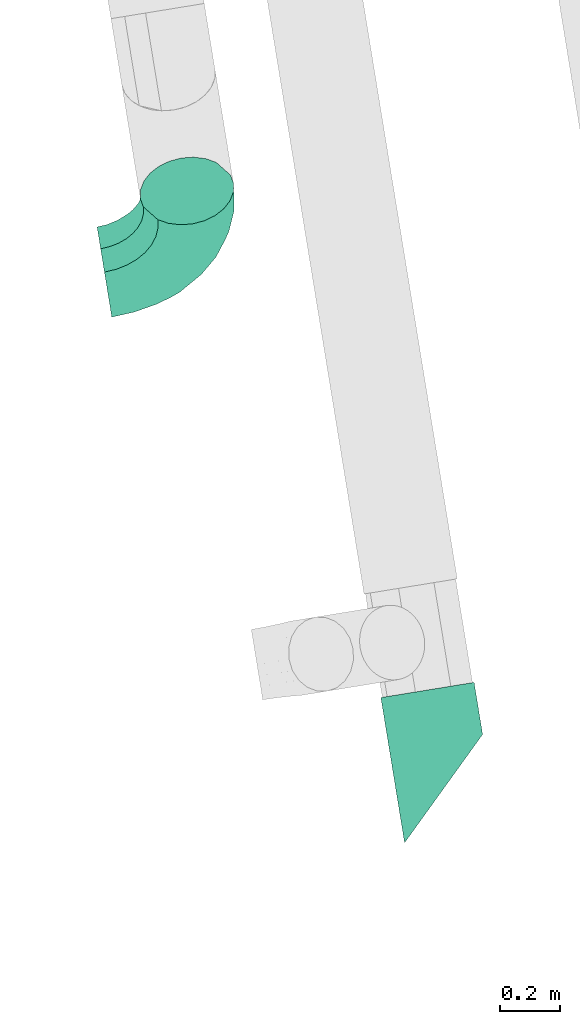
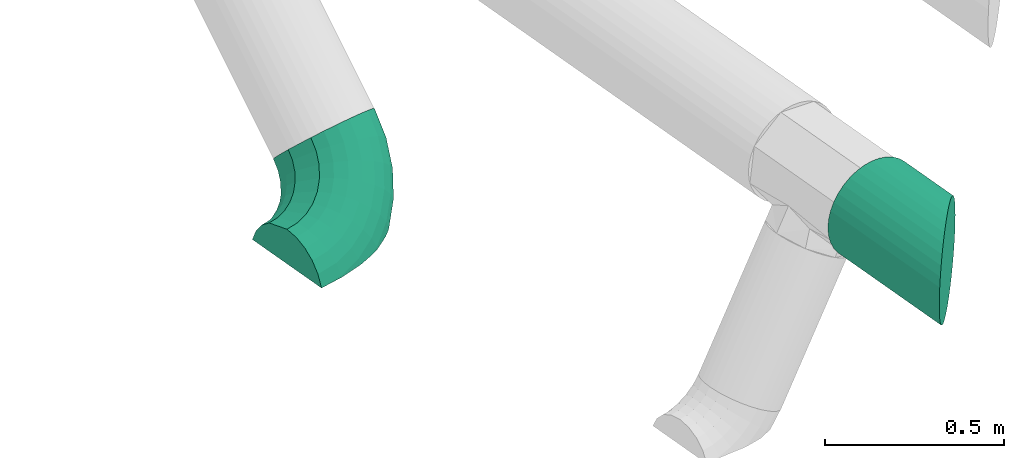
# One storey, part 15 of 15: 1 flow fitting, 1 flow segment.
"""IFC2X3 building model written with IfcOpenShell, lengths in millimetres."""

from ifc_helpers import new_model, entity, si_unit, converted_unit, derived_unit, direction, frame, origin, origin_with_axes, place, context, subcontext, project, spatial, faceted_brep, material, type_object, element, save


model = new_model("IFC2X3")

# Units and contexts
model_context = context("Model", 3, precision=0.01, world=origin(), true_north=direction((6.12323399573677e-17, 1.0)))
plan_context = context("Plan", 3, precision=1e-05, world=origin_with_axes())
body_context = subcontext(model_context, "Body", "Model", "MODEL_VIEW")
ifc_project = project(units=[converted_unit("PLANEANGLEUNIT", "DEGREE", entity("IfcPositiveLengthMeasure", 0.0174532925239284), si_unit("PLANEANGLEUNIT", "RADIAN"), dimensions=[0, 0, 0, 0, 0, 0, 0]), si_unit("AREAUNIT", "SQUARE_METRE"), si_unit("LENGTHUNIT", "METRE", prefix="MILLI"), si_unit("MASSUNIT", "GRAM", prefix="KILO"), si_unit("POWERUNIT", "WATT"), si_unit("PRESSUREUNIT", "PASCAL", prefix="KILO"), si_unit("FORCEUNIT", "NEWTON", prefix="KILO"), si_unit("ELECTRICVOLTAGEUNIT", "VOLT"), si_unit("ELECTRICCURRENTUNIT", "AMPERE"), si_unit("THERMODYNAMICTEMPERATUREUNIT", "DEGREE_CELSIUS"), si_unit("TIMEUNIT", "SECOND"), si_unit("VOLUMEUNIT", "CUBIC_METRE"), derived_unit("LINEARVELOCITYUNIT", [(si_unit("LENGTHUNIT", "METRE"), 1), (si_unit("TIMEUNIT", "SECOND"), -1)]), derived_unit("VOLUMETRICFLOWRATEUNIT", [(si_unit("VOLUMEUNIT", "CUBIC_METRE"), 1), (si_unit("TIMEUNIT", "SECOND"), -1)]), derived_unit("THERMALTRANSMITTANCEUNIT", [(si_unit("POWERUNIT", "WATT"), 1), (si_unit("THERMODYNAMICTEMPERATUREUNIT", "KELVIN"), -1), (si_unit("AREAUNIT", "SQUARE_METRE"), -1)]), derived_unit("SOUNDPRESSUREUNIT", [(si_unit("PRESSUREUNIT", "PASCAL"), 1)])], contexts=[model_context, plan_context])

# Site, building, storey
site_placement = place(None, frame((5.09380697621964e-08, 5.80416781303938e-08, 0.0), z_axis=(0.0, 0.0, 1.0), x_axis=(-0.160806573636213, 0.986985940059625, 0.0)))
site = spatial("IfcSite", under=ifc_project, at=site_placement, Name="Default", CompositionType="ELEMENT")
building_placement = place(site_placement, frame((0.0, 0.0, 0.0), z_axis=(0.0, 0.0, 1.0), x_axis=(1.0, -2.77555756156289e-17, 0.0)))
building = spatial("IfcBuilding", under=site, at=building_placement, Name="Bygning (endres i Project Information)", CompositionType="ELEMENT")
storey_placement = place(building_placement, frame((0.0, 0.0, 51360.0000000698), z_axis=(0.0, 0.0, 1.0), x_axis=(1.0, -2.77555756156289e-17, 0.0)))
storey = spatial("IfcBuildingStorey", under=building, at=storey_placement, Name="H01-Nivå D+0,36", CompositionType="ELEMENT", Elevation=51360.0000000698)

# Flow fitting
ifc_material_1 = material(Name="3601.001 Avtrekk")
duct_fitting_type = type_object("IfcDuctFittingType", Name="magicirc_elbow_full_radius_NOR:magicirc_elbow_full_radius_NOR", PredefinedType="NOTDEFINED", material=ifc_material_1)
flow_fitting_placement = place(storey_placement, frame((1007771.23246289, -355155.614985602, 3100.0), z_axis=(-0.707106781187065, 1.96261557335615e-17, 0.70710678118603), x_axis=(-2.77555756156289e-17, -1.0, 0.0)))
element("IfcFlowFitting", 1, at=flow_fitting_placement, inside=storey, type_object=duct_fitting_type, Name="magicirc_elbow_full_radius_NOR:magicirc_elbow_full_radius_NOR", ObjectType="magicirc_elbow_full_radius_NOR:magicirc_elbow_full_radius_NOR", context=body_context, shape_type="Brep", body=[
    faceted_brep([(77.4536759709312, 52.7708375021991, 3.79770489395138), (40.8507561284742, 15.8045427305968, 40.7639996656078), (73.4071586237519, 55.4746339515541, 40.7639996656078), (80.0477799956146, 56.5685423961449, 0.0), (116.574911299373, 136.23581884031, 40.7639996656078), (121.533079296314, 134.182078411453, 0.0), (143.157482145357, 223.866810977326, 40.7639996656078), (148.421045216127, 222.819823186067, 0.0), (152.133317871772, 315.000000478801, 40.7639996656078), (157.500000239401, 315.000000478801, 0.0), (143.157482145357, 223.866810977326, -40.7639996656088), (152.133317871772, 315.000000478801, -40.7639996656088), (103.176751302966, 231.819472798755, -111.369318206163), (111.369318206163, 315.000000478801, -111.369318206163), (71.1842042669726, 238.183186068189, -136.399001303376), (78.7500001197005, 315.000000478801, -136.399001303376), (33.928094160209, 245.593887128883, -152.133317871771), (40.7639996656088, 315.000000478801, -152.133317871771), (-6.05263668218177, 253.546548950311, -157.5000002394), (0.0, 315.000000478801, -157.5000002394), (-46.0333675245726, 261.49921077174, -152.133317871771), (-40.7639996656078, 315.000000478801, -152.133317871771), (-83.2894776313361, 268.909911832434, -136.399001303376), (-78.7500001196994, 315.000000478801, -136.399001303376), (-115.282024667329, 275.273625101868, -111.369318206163), (-111.369318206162, 315.000000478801, -111.369318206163), (-139.830769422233, 280.156674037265, -78.7500001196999), (-136.399001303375, 315.000000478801, -78.7500001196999), (-155.26275550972, 283.226286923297, -40.7639996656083), (-152.13331787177, 315.000000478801, -40.7639996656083), (-160.52631858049, 284.273274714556, 0.0), (-157.500000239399, 315.000000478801, 0.0), (-155.26275550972, 283.226286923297, 40.7639996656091), (-152.13331787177, 315.000000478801, 40.7639996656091), (-115.282024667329, 275.273625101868, 111.369318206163), (-111.369318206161, 315.000000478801, 111.369318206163), (-83.2894776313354, 268.909911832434, 136.399001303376), (-78.7500001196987, 315.000000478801, 136.399001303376), (-46.0333675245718, 261.49921077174, 152.133317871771), (-40.7639996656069, 315.000000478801, 152.133317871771), (-6.05263668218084, 253.546548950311, 157.5000002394), (0.0, 315.000000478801, 157.5000002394), (33.9280941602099, 245.593887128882, 152.133317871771), (40.7639996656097, 315.000000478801, 152.133317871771), (71.1842042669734, 238.183186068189, 136.399001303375), (78.7500001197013, 315.000000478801, 136.399001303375), (103.176751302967, 231.819472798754, 111.369318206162), (111.369318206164, 315.000000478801, 111.369318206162), (127.725496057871, 226.936423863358, 78.7500001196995), (136.399001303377, 315.000000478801, 78.7500001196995), (102.038298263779, 142.257081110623, 78.7500001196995), (78.9138863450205, 151.835526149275, 111.369318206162), (60.3245525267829, 64.2161518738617, 78.7500001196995), (39.5131316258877, 78.1218987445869, 111.369318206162), (12.3911598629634, 96.2442208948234, 136.399001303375), (48.7775660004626, 164.318398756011, 136.399001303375), (-19.1930452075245, 117.348112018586, 152.133317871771), (13.6830776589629, 178.855011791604, 152.133317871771), (-53.0870722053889, 139.995376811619, 157.5000002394), (-23.9779472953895, 194.454719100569, 157.5000002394), (-86.9810992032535, 162.642641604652, 152.133317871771), (-61.6389722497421, 210.054426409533, 152.133317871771), (-118.565304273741, 183.746532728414, 136.399001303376), (-96.7334605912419, 224.591039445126, 136.399001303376), (-145.687276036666, 201.868854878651, 111.369318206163), (-126.8697809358, 237.073912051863, 111.369318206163), (-179.581303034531, 224.516119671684, 40.7639996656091), (-164.530805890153, 252.673619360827, 40.7639996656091), (-184.043536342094, 227.49768864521, 0.0), (-169.488973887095, 254.727359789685, 0.0), (-179.581303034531, 224.516119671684, -40.7639996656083), (-164.530805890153, 252.673619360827, -40.7639996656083), (-166.498696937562, 215.774601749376, -78.7500001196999), (-149.994192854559, 246.652357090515, -78.7500001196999), (-145.687276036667, 201.868854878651, -111.369318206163), (-126.869780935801, 237.073912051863, -111.369318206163), (-124.360909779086, 187.619032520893, -131.05049012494), (-113.636571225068, 192.967543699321, -136.399001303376), (-96.7334605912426, 224.591039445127, -136.399001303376), (-62.3619339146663, 208.701860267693, -152.133317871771), (-61.6389722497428, 210.054426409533, -152.133317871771), (-59.2094158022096, 209.048071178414, -152.479528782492), (89.9387691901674, 147.26887015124, -90.700327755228), (95.7806766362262, 97.332542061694, -40.7639996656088), (116.574911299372, 136.23581884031, -40.7639996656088), (-174.756439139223, 167.937860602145, -111.369318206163), (-169.537377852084, 169.537377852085, -112.968835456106), (-171.011364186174, 171.011364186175, -111.369318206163), (-207.659734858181, 154.353940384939, -97.7853979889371), (-188.710022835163, 188.710022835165, -78.7500001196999), (-215.774601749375, 166.498696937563, -78.7500001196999), (-224.516119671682, 179.581303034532, -40.7639996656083), (-199.835864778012, 199.835864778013, -40.7639996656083), (-227.497688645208, 184.043536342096, 0.0), (-203.630682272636, 203.630682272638, 0.0), (-224.516119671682, 179.581303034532, 40.7639996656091), (-199.835864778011, 199.835864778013, 40.7639996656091), (-201.868854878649, 145.687276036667, 111.369318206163), (-171.011364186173, 171.011364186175, 111.369318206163), (-183.746532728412, 118.565304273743, 136.399001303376), (-147.946023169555, 147.946023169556, 136.399001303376), (-162.64264160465, 86.981099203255, 152.133317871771), (-121.085864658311, 121.085864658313, 152.133317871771), (-139.995376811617, 53.0870722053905, 157.5000002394), (-92.2613640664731, 92.261364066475, 157.5000002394), (-117.348112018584, 19.1930452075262, 152.133317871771), (-63.4368634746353, 63.4368634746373, 152.133317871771), (-96.2442208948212, -12.3911598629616, 136.399001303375), (-36.5767049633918, 36.5767049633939, 136.399001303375), (-78.1218987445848, -39.513131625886, 111.369318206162), (-13.5113639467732, 13.5113639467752, 111.369318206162), (-17.7386563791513, -22.1814577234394, 78.7500001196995), (-74.1431757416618, -45.4677114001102, 102.036253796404), (4.18729470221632, -4.18729470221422, 78.7500001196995), (-106.723069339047, -54.8007758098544, 111.369318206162), (-157.291801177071, -65.7412731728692, 122.309815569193), (-237.218259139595, -76.0352195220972, 132.603761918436), (-238.183186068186, -71.1842042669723, 136.399001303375), (-164.318398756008, -48.7775660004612, 136.399001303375), (-245.59388712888, -33.9280941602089, 152.133317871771), (-178.855011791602, -13.6830776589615, 152.133317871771), (-253.546548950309, 6.05263668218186, 157.5000002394), (-194.454719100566, 23.9779472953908, 157.5000002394), (-261.499210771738, 46.0333675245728, 152.133317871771), (-210.054426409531, 61.6389722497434, 152.133317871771), (-268.909911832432, 83.2894776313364, 136.399001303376), (-224.591039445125, 96.7334605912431, 136.399001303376), (-275.273625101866, 115.28202466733, 111.369318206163), (-237.073912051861, 126.869780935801, 111.369318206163), (-283.226286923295, 155.262755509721, 40.7639996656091), (-252.673619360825, 164.530805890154, 40.7639996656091), (-284.273274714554, 160.526318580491, 0.0), (-254.727359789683, 169.488973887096, 0.0), (-283.226286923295, 155.262755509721, -40.7639996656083), (-252.673619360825, 164.530805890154, -40.7639996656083), (-280.156674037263, 139.830769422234, -78.7500001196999), (-246.652357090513, 149.994192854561, -78.7500001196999), (-279.77125910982, 137.893157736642, -81.3246153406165), (-244.130640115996, 143.906229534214, -87.3376871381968), (-315.000000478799, 135.929894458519, -79.3613520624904), (-315.000000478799, 136.399001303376, -78.7500001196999), (-315.000000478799, 152.133317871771, -40.7639996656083), (-315.000000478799, 157.5000002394, 0.0), (-315.000000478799, 152.133317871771, 40.7639996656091), (-315.000000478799, 111.369318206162, 111.369318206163), (-315.000000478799, 78.7500001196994, 136.399001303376), (-315.000000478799, 40.7639996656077, 152.133317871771), (-315.000000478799, 0.0, 157.5000002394), (-315.000000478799, -40.763999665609, 152.133317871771), (-315.000000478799, -78.7500001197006, 136.399001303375), (-315.000000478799, -79.3613520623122, 135.929894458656), (-18.0281589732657, 214.068542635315, -157.5000002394), (22.7370201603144, 208.701860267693, -152.133317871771), (57.468189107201, 192.967543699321, -136.399001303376), (83.7984760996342, 167.937860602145, -111.369318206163), (8.26370894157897, -8.26370894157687, 64.8322513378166)], [[[0, 1, 2]], [[3, 0, 2, 4, 5]], [[5, 4, 6, 7]], [[7, 6, 8, 9]], [[10, 7, 9, 11]], [[12, 10, 11, 13]], [[14, 12, 13, 15]], [[16, 14, 15, 17]], [[18, 16, 17, 19]], [[20, 18, 19, 21]], [[22, 20, 21, 23]], [[24, 22, 23, 25]], [[26, 24, 25, 27]], [[28, 26, 27, 29]], [[30, 28, 29, 31]], [[32, 30, 31, 33]], [[34, 32, 33, 35]], [[36, 34, 35, 37]], [[38, 36, 37, 39]], [[40, 38, 39, 41]], [[42, 40, 41, 43]], [[44, 42, 43, 45]], [[46, 44, 45, 47]], [[48, 46, 47, 49]], [[50, 51, 46, 48]], [[52, 53, 51, 50]], [[53, 54, 55, 51]], [[54, 56, 57, 55]], [[56, 58, 59, 57]], [[58, 60, 61, 59]], [[60, 62, 63, 61]], [[62, 64, 65, 63]], [[64, 66, 67, 65]], [[66, 68, 69, 67]], [[68, 70, 71, 69]], [[70, 72, 73, 71]], [[72, 74, 75, 73]], [[76, 77, 78, 75, 74]], [[77, 79, 80, 78]], [[79, 81, 80]], [[82, 83, 84]], [[85, 86, 87]], [[88, 85, 87, 89, 90]], [[91, 90, 89, 92]], [[93, 91, 92, 94]], [[95, 93, 94, 96]], [[97, 95, 96, 98]], [[99, 97, 98, 100]], [[101, 99, 100, 102]], [[103, 101, 102, 104]], [[105, 103, 104, 106]], [[107, 105, 106, 108]], [[109, 107, 108, 110]], [[111, 112, 109, 110, 113]], [[112, 114, 109]], [[115, 116, 117, 118]], [[117, 119, 120, 118]], [[119, 121, 122, 120]], [[121, 123, 124, 122]], [[123, 125, 126, 124]], [[125, 127, 128, 126]], [[127, 129, 130, 128]], [[129, 131, 132, 130]], [[131, 133, 134, 132]], [[133, 135, 136, 134]], [[137, 138, 136, 135]], [[139, 137, 135, 140]], [[141, 140, 135, 133]], [[142, 141, 133, 131]], [[143, 142, 131, 129]], [[144, 143, 129, 127]], [[145, 144, 127, 125]], [[146, 145, 125, 123]], [[147, 146, 123, 121]], [[148, 147, 121, 119]], [[149, 148, 119, 117]], [[116, 150, 149, 117]], [[114, 115, 118, 107, 109]], [[118, 120, 105, 107]], [[120, 122, 103, 105]], [[122, 124, 101, 103]], [[124, 126, 99, 101]], [[126, 128, 97, 99]], [[128, 130, 95, 97]], [[130, 132, 93, 95]], [[132, 134, 91, 93]], [[134, 136, 90, 91]], [[138, 88, 90, 136]], [[86, 76, 74, 87]], [[89, 87, 74, 72]], [[92, 89, 72, 70]], [[94, 92, 70, 68]], [[96, 94, 68, 66]], [[98, 96, 66, 64]], [[100, 98, 64, 62]], [[102, 100, 62, 60]], [[104, 102, 60, 58]], [[106, 104, 58, 56]], [[108, 106, 56, 54]], [[110, 108, 54, 53]], [[113, 110, 53, 52]], [[51, 55, 44, 46]], [[55, 57, 42, 44]], [[57, 59, 40, 42]], [[59, 61, 38, 40]], [[61, 63, 36, 38]], [[63, 65, 34, 36]], [[65, 67, 32, 34]], [[67, 69, 30, 32]], [[69, 71, 28, 30]], [[71, 73, 26, 28]], [[73, 75, 24, 26]], [[75, 78, 22, 24]], [[78, 80, 20, 22]], [[81, 151, 18, 20, 80]], [[151, 152, 16, 18]], [[152, 153, 14, 16]], [[153, 154, 12, 14]], [[154, 82, 84, 10, 12]], [[6, 48, 49, 8]], [[84, 5, 7, 10]], [[4, 50, 48, 6]], [[83, 3, 5, 84]], [[2, 52, 50, 4]], [[1, 155, 113, 52, 2]], [[155, 111, 113]], [[150, 139, 140, 141, 142, 143, 144, 145, 146, 147, 148, 149]], [[9, 8, 49, 47, 45, 43, 41, 39, 37, 35, 33, 31, 29, 27, 25, 23, 21, 19, 17, 15, 13, 11]], [[3, 83, 82, 154, 153, 152, 151, 81, 79, 77, 76, 86, 85, 88, 138, 137, 139, 150, 116, 115, 114, 112, 111, 155, 1, 0]]], orient=[[False], [False], [False], [False], [False], [False], [False], [False], [False], [False], [False], [False], [False], [False], [False], [False], [False], [False], [False], [False], [False], [False], [False], [False], [False], [False], [False], [False], [False], [False], [False], [False], [False], [False], [False], [False], [False], [False], [False], [False], [False], [False], [False], [False], [False], [False], [False], [False], [False], [False], [False], [False], [False], [False], [False], [False], [False], [False], [False], [False], [False], [False], [False], [False], [False], [False], [False], [False], [False], [False], [False], [False], [False], [False], [False], [False], [False], [False], [False], [False], [False], [False], [False], [False], [False], [False], [False], [False], [False], [False], [False], [False], [False], [False], [False], [False], [False], [False], [False], [False], [False], [False], [False], [False], [False], [False], [False], [False], [False], [False], [False], [False], [False], [False], [False], [False], [False], [False], [False], [False], [False], [False], [False], [False], [False], [False], [False], [False], [False]]),
])

# Flow segment
ifc_material_2 = material(Name="3601.001 Tilluft")
duct_segment_type = type_object("IfcDuctSegmentType", Name="Round Duct:Sirkulær kanal", PredefinedType="NOTDEFINED", material=ifc_material_2)
flow_segment_placement = place(storey_placement, frame((0.0, 0.0, 0.0), z_axis=(0.0, 0.0, 1.0), x_axis=(1.0, -2.77555756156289e-17, 0.0)))
element("IfcFlowSegment", 2, at=flow_segment_placement, inside=storey, type_object=duct_segment_type, Name="Round Duct:Sirkulær kanal", ObjectType="Round Duct:Sirkulær kanal", context=body_context, shape_type="Brep", body=[
    faceted_brep([(1006046.54670011, -355837.338084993, 3800.0), (1006044.1539212, -355834.945306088, 3827.34958802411), (1006222.35159129, -355834.945306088, 3827.34958802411), (1006222.35159129, -355837.338084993, 3800.0), (1006044.1539212, -355834.945306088, 3772.65041197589), (1006222.35159129, -355834.945306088, 3772.65041197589), (1006037.04828787, -355827.839672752, 3746.13182734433), (1006222.35159129, -355827.839672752, 3746.13182734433), (1006025.44570117, -355816.237086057, 3721.2499998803), (1006222.35159129, -355816.237086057, 3721.2499998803), (1006009.69869984, -355800.490084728, 3698.76095132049), (1006222.35159129, -355800.490084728, 3698.76095132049), (1005990.28574855, -355781.077133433, 3679.34800002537), (1006222.35159129, -355781.077133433, 3679.34800002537), (1005967.79669999, -355758.588084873, 3663.60099869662), (1006222.35159129, -355758.588084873, 3663.60099869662), (1005942.91487252, -355733.706257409, 3651.99841200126), (1006222.35159129, -355733.706257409, 3651.99841200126), (1005916.39628789, -355707.187672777, 3644.89277866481), (1006222.35159129, -355707.187672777, 3644.89277866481), (1005889.04669987, -355679.838084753, 3642.4999997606), (1006222.35159129, -355679.838084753, 3642.4999997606), (1005861.69711184, -355652.488496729, 3644.89277866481), (1006222.35159129, -355652.488496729, 3644.89277866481), (1005835.17852721, -355625.969912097, 3651.99841200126), (1006222.35159129, -355625.969912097, 3651.99841200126), (1005810.29669975, -355601.088084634, 3663.60099869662), (1006222.35159129, -355601.088084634, 3663.60099869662), (1005787.80765119, -355578.599036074, 3679.34800002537), (1006222.35159129, -355578.599036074, 3679.34800002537), (1005768.39469989, -355559.186084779, 3698.76095132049), (1006222.35159129, -355559.186084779, 3698.76095132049), (1005752.64769857, -355543.43908345, 3721.2499998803), (1006222.35159129, -355543.43908345, 3721.2499998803), (1005741.04511187, -355531.836496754, 3746.13182734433), (1006222.35159129, -355531.836496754, 3746.13182734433), (1005733.93947853, -355524.730863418, 3772.65041197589), (1006222.35159129, -355524.730863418, 3772.65041197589), (1005731.54669963, -355522.338084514, 3800.0), (1006222.35159129, -355522.338084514, 3800.0), (1005733.93947853, -355524.730863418, 3827.34958802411), (1006222.35159129, -355524.730863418, 3827.34958802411), (1005741.04511187, -355531.836496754, 3853.86817265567), (1006222.35159129, -355531.836496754, 3853.86817265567), (1005752.64769857, -355543.43908345, 3878.7500001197), (1006222.35159129, -355543.43908345, 3878.7500001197), (1005768.39469989, -355559.186084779, 3901.23904867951), (1006222.35159129, -355559.186084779, 3901.23904867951), (1005787.80765119, -355578.599036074, 3920.65199997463), (1006222.35159129, -355578.599036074, 3920.65199997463), (1005810.29669975, -355601.088084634, 3936.39900130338), (1006222.35159129, -355601.088084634, 3936.39900130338), (1005835.17852721, -355625.969912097, 3948.00158799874), (1006222.35159129, -355625.969912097, 3948.00158799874), (1005861.69711184, -355652.488496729, 3955.10722133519), (1006222.35159129, -355652.488496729, 3955.10722133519), (1005889.04669987, -355679.838084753, 3957.5000002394), (1006222.35159129, -355679.838084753, 3957.5000002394), (1005916.39628789, -355707.187672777, 3955.10722133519), (1006222.35159129, -355707.187672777, 3955.10722133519), (1005942.91487252, -355733.706257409, 3948.00158799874), (1006222.35159129, -355733.706257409, 3948.00158799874), (1005967.79669999, -355758.588084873, 3936.39900130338), (1006222.35159129, -355758.588084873, 3936.39900130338), (1005990.28574855, -355781.077133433, 3920.65199997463), (1006222.35159129, -355781.077133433, 3920.65199997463), (1006009.69869984, -355800.490084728, 3901.23904867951), (1006222.35159129, -355800.490084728, 3901.23904867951), (1006025.44570117, -355816.237086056, 3878.7500001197), (1006222.35159129, -355816.237086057, 3878.7500001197), (1006037.04828787, -355827.839672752, 3853.86817265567), (1006222.35159129, -355827.839672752, 3853.86817265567)], [[[0, 1, 2, 3]], [[4, 0, 3, 5]], [[6, 4, 5, 7]], [[8, 6, 7, 9]], [[10, 8, 9, 11]], [[12, 10, 11, 13]], [[14, 12, 13, 15]], [[16, 14, 15, 17]], [[18, 16, 17, 19]], [[20, 18, 19, 21]], [[22, 20, 21, 23]], [[24, 22, 23, 25]], [[26, 24, 25, 27]], [[28, 26, 27, 29]], [[30, 28, 29, 31]], [[32, 30, 31, 33]], [[34, 32, 33, 35]], [[36, 34, 35, 37]], [[38, 36, 37, 39]], [[40, 38, 39, 41]], [[42, 40, 41, 43]], [[44, 42, 43, 45]], [[46, 44, 45, 47]], [[48, 46, 47, 49]], [[50, 48, 49, 51]], [[52, 50, 51, 53]], [[54, 52, 53, 55]], [[56, 54, 55, 57]], [[58, 56, 57, 59]], [[60, 58, 59, 61]], [[62, 60, 61, 63]], [[64, 62, 63, 65]], [[66, 64, 65, 67]], [[68, 66, 67, 69]], [[70, 68, 69, 71]], [[1, 70, 71, 2]], [[3, 2, 71, 69, 67, 65, 63, 61, 59, 57, 55, 53, 51, 49, 47, 45, 43, 41, 39, 37, 35, 33, 31, 29, 27, 25, 23, 21, 19, 17, 15, 13, 11, 9, 7, 5]], [[4, 6, 8, 10, 12, 14, 16, 18, 20, 22, 24, 26, 28, 30, 32, 34, 36, 38, 40, 42, 44, 46, 48, 50, 52, 54, 56, 58, 60, 62, 64, 66, 68, 70, 1, 0]]], orient=[[False], [False], [False], [False], [False], [False], [False], [False], [False], [False], [False], [False], [False], [False], [False], [False], [False], [False], [False], [False], [False], [False], [False], [False], [False], [False], [False], [False], [False], [False], [False], [False], [False], [False], [False], [False], [False], [False]]),
])

save(model, "model.ifc")
